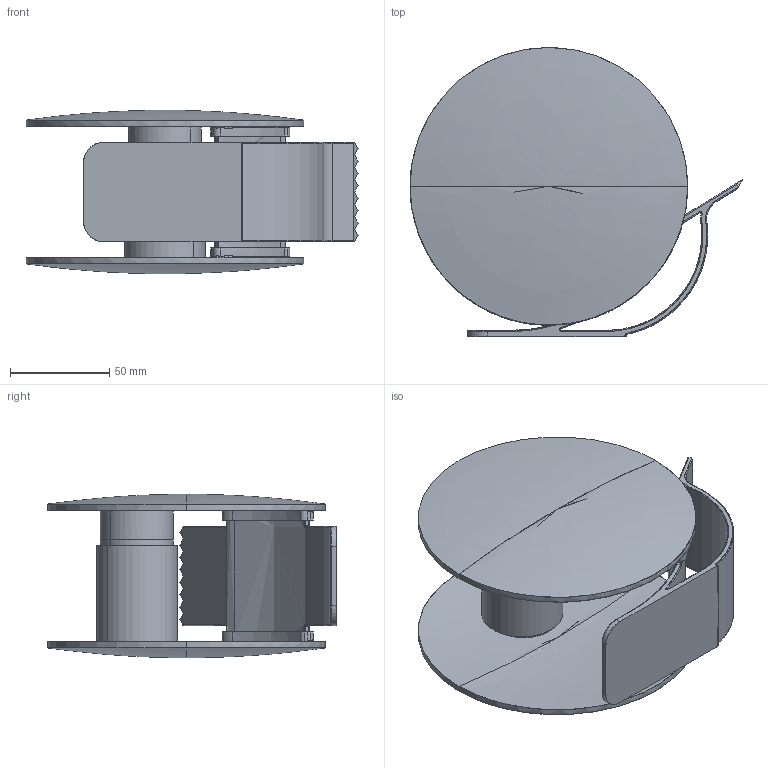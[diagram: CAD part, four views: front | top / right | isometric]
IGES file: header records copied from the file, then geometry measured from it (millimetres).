
Start section: SolidWorks IGES file using analytic representation for surfaces
Global section: file name: C:\Users\Eddie\Dropbox\Studio Brignetti Longoni\1. Progetti in corso\32. Eumakers\32.7 Definitivi\32.7.1 Consegna\03. Portascotch\Portascotch.IGS; native system: SolidWorks 2016; preprocessor: SolidWorks 2016; author: Eddie; date: 160725.113801; units: millimetre
Bounding box: 167.34 x 145.64 x 82.4 mm (x, y, z)
Surface area: 119957.6 mm2 (no closed solid volume)
Topology: 0 solids, 0 shells, 262 faces, 2917 edges, 2909 vertices
Faces by surface type: revolution 139, bspline 123
